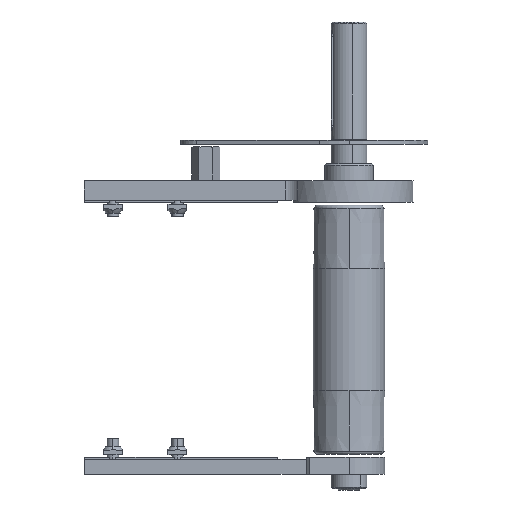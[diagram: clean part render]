
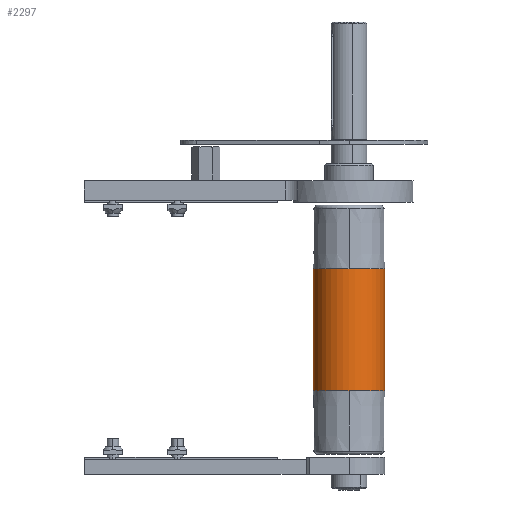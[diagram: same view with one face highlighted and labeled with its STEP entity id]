
A CAD part, front view. The second image highlights one B-rep face of the part: STEP entity #2297.
In plain terms, the highlighted cylindrical face has radius 25 mm (diameter 50 mm), a partial arc.
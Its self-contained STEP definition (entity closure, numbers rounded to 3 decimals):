
#140 = DIRECTION ( 'NONE',  ( 0., 1., 0. ) ) ;
#142 = DIRECTION ( 'NONE',  ( 0., 0., -1. ) ) ;
#146 = CARTESIAN_POINT ( 'NONE',  ( 0., 0., 42.5 ) ) ;
#309 = CARTESIAN_POINT ( 'NONE',  ( 0., -25., 42.5 ) ) ;
#314 = CARTESIAN_POINT ( 'NONE',  ( -25., 0., 42.5 ) ) ;
#340 = CARTESIAN_POINT ( 'NONE',  ( -25., 0., -42.5 ) ) ;
#341 = CARTESIAN_POINT ( 'NONE',  ( 0., -25., -42.5 ) ) ;
#369 = CARTESIAN_POINT ( 'NONE',  ( 25., 0., -42.5 ) ) ;
#373 = CARTESIAN_POINT ( 'NONE',  ( 25., 0., 42.5 ) ) ;
#1230 = ORIENTED_EDGE ( 'NONE', *, *, #10189, .F. ) ;
#1449 = ORIENTED_EDGE ( 'NONE', *, *, #9588, .T. ) ;
#1655 = ORIENTED_EDGE ( 'NONE', *, *, #9942, .F. ) ;
#1665 = ORIENTED_EDGE ( 'NONE', *, *, #9444, .T. ) ;
#1724 = ORIENTED_EDGE ( 'NONE', *, *, #9421, .T. ) ;
#1742 = ORIENTED_EDGE ( 'NONE', *, *, #9855, .F. ) ;
#2035 = CIRCLE ( 'NONE', #4260, 25. ) ;
#2297 = ADVANCED_FACE ( 'NONE', ( #5187 ), #5180, .T. ) ;
#2666 = VECTOR ( 'NONE', #3796, 1000. ) ;
#2667 = LINE ( 'NONE', #3799, #2666 ) ;
#2792 = CIRCLE ( 'NONE', #7342, 25. ) ;
#3113 = CIRCLE ( 'NONE', #7452, 25. ) ;
#3796 = DIRECTION ( 'NONE',  ( 0., 0., -1. ) ) ;
#3799 = CARTESIAN_POINT ( 'NONE',  ( 25., 0., 85. ) ) ;
#4065 = DIRECTION ( 'NONE',  ( 0., 0., -1. ) ) ;
#4086 = DIRECTION ( 'NONE',  ( 1., 0., 0. ) ) ;
#4130 = CARTESIAN_POINT ( 'NONE',  ( 0., 0., 85. ) ) ;
#4260 = AXIS2_PLACEMENT_3D ( 'NONE', #7164, #7163, #7162 ) ;
#4623 = DIRECTION ( 'NONE',  ( 0., 1., 0. ) ) ;
#4624 = DIRECTION ( 'NONE',  ( 0., 0., -1. ) ) ;
#4625 = CARTESIAN_POINT ( 'NONE',  ( 0., 0., -42.5 ) ) ;
#4809 = VECTOR ( 'NONE', #6540, 1000. ) ;
#4811 = LINE ( 'NONE', #6554, #4809 ) ;
#4844 = CIRCLE ( 'NONE', #7521, 25. ) ;
#5180 = CYLINDRICAL_SURFACE ( 'NONE', #7892, 25. ) ;
#5187 = FACE_OUTER_BOUND ( 'NONE', #8839, .T. ) ;
#5805 = VERTEX_POINT ( 'NONE', #373 ) ;
#5808 = VERTEX_POINT ( 'NONE', #369 ) ;
#5823 = VERTEX_POINT ( 'NONE', #341 ) ;
#5824 = VERTEX_POINT ( 'NONE', #340 ) ;
#5843 = VERTEX_POINT ( 'NONE', #314 ) ;
#5847 = VERTEX_POINT ( 'NONE', #309 ) ;
#6226 = DIRECTION ( 'NONE',  ( 0., 1., 0. ) ) ;
#6231 = DIRECTION ( 'NONE',  ( 0., 0., -1. ) ) ;
#6233 = CARTESIAN_POINT ( 'NONE',  ( 0., 0., 42.5 ) ) ;
#6540 = DIRECTION ( 'NONE',  ( 0., 0., -1. ) ) ;
#6554 = CARTESIAN_POINT ( 'NONE',  ( -25., 0., 85. ) ) ;
#7162 = DIRECTION ( 'NONE',  ( 0., 1., 0. ) ) ;
#7163 = DIRECTION ( 'NONE',  ( 0., 0., -1. ) ) ;
#7164 = CARTESIAN_POINT ( 'NONE',  ( 0., 0., -42.5 ) ) ;
#7342 = AXIS2_PLACEMENT_3D ( 'NONE', #4625, #4624, #4623 ) ;
#7452 = AXIS2_PLACEMENT_3D ( 'NONE', #6233, #6231, #6226 ) ;
#7521 = AXIS2_PLACEMENT_3D ( 'NONE', #146, #142, #140 ) ;
#7892 = AXIS2_PLACEMENT_3D ( 'NONE', #4130, #4065, #4086 ) ;
#8839 = EDGE_LOOP ( 'NONE', ( #1724, #1665, #1230, #1742, #1655, #1449 ) ) ;
#9421 = EDGE_CURVE ( 'NONE', #5847, #5843, #4844, .T. ) ;
#9444 = EDGE_CURVE ( 'NONE', #5843, #5824, #4811, .T. ) ;
#9588 = EDGE_CURVE ( 'NONE', #5805, #5847, #3113, .T. ) ;
#9855 = EDGE_CURVE ( 'NONE', #5808, #5823, #2792, .T. ) ;
#9942 = EDGE_CURVE ( 'NONE', #5805, #5808, #2667, .T. ) ;
#10189 = EDGE_CURVE ( 'NONE', #5823, #5824, #2035, .T. ) ;
